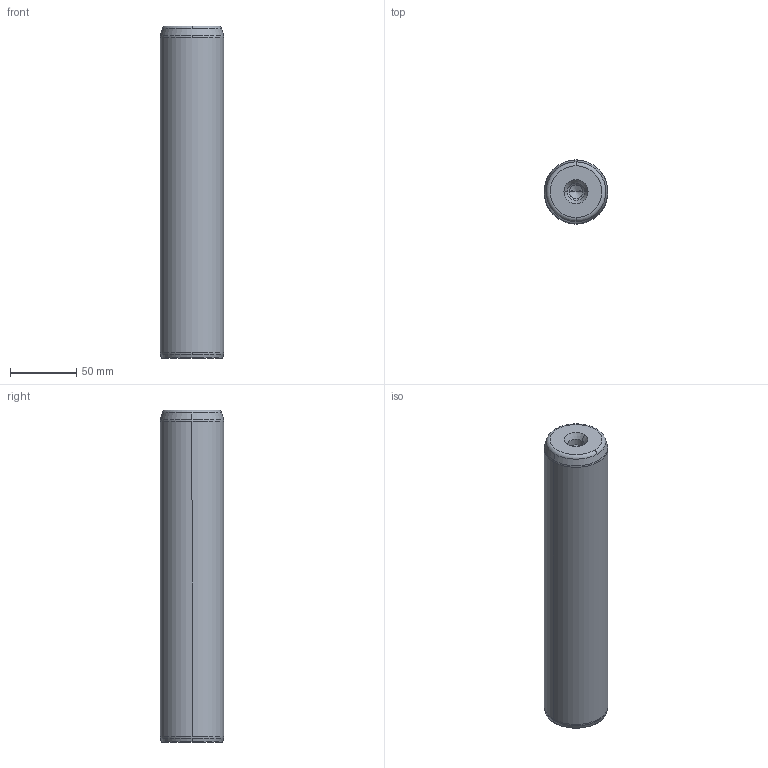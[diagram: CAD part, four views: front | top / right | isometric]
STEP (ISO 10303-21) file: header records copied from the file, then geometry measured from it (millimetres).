
FILE_DESCRIPTION((''),'2;1');
FILE_NAME('P10_048_250.stp','2008-12-23T16:08:31',(''),(''),'Mechanical Desktop 2009','Mechanical Desktop 2009',', , ');
FILE_SCHEMA(('CONFIG_CONTROL_DESIGN'));
Length unit declared in the file: millimetre
Products named in the file (5): Product; ProductAA; blmdl1; ProductA; blmdl1A
Assembly tree (2 placements, depth 3):
  Product
    ProductAA
      blmdl1
  ProductA
  blmdl1A
Bounding box: 48 x 48 x 250 mm (x, y, z)
Volume: 446822.9 mm3; surface area: 41976 mm2
Topology: 1 solids, 1 shells, 26 faces, 66 edges, 41 vertices
Faces by surface type: cone 10, torus 8, cylinder 6, plane 2
Entity records: 1012 total; most frequent: DIRECTION 170, CARTESIAN_POINT 134, ORIENTED_EDGE 128, AXIS2_PLACEMENT_3D 77, EDGE_CURVE 64, CIRCLE 48, VERTEX_POINT 41, EDGE_LOOP 27
